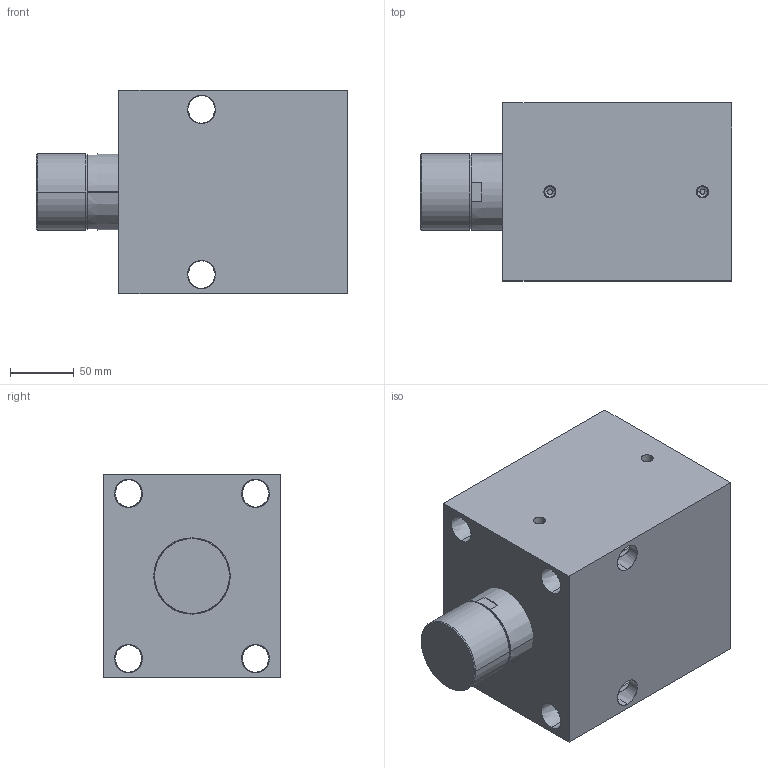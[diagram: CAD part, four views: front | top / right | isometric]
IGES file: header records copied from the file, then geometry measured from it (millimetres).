
Start section: SolidWorks IGES file using analytic representation for surfaces
Global section: file name: C:\Documents and Settings\rajib\Desktop\Rajib\BLOCK CYLINDER HYDRAULIC\0901-0906\IGES 0901-0908\0901.IGS; native system: SolidWorks 2007; preprocessor: SolidWorks 2007; author: rajib; date: 110121.164929; units: millimetre
Bounding box: 245 x 140 x 160 mm (x, y, z)
Surface area: 245993.6 mm2 (no closed solid volume)
Topology: 0 solids, 0 shells, 76 faces, 1968 edges, 1968 vertices
Faces by surface type: revolution 54, bspline 22
